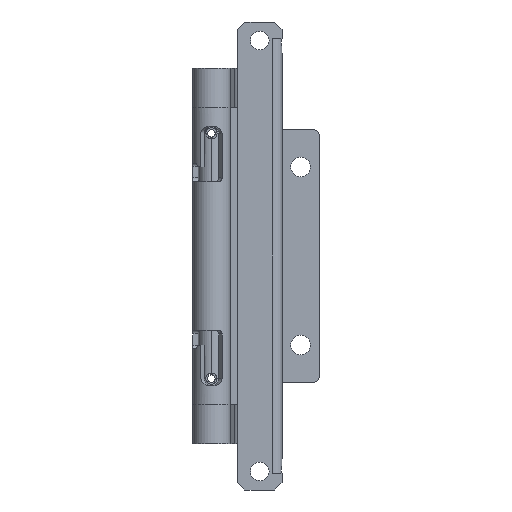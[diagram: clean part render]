
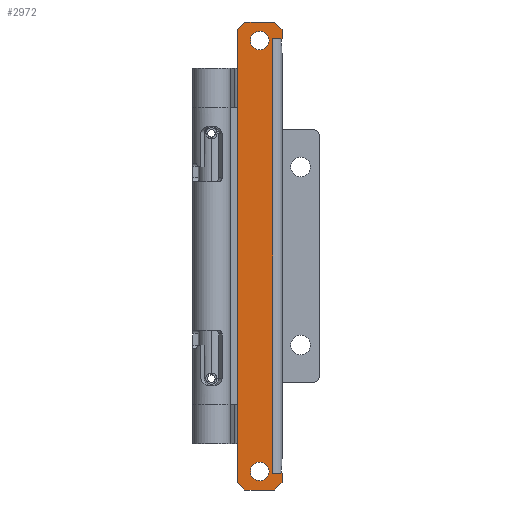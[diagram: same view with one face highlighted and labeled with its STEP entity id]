
A CAD part, front view. The second image highlights one B-rep face of the part: STEP entity #2972.
In plain terms, the highlighted planar face has unit normal (0, -1, 0).
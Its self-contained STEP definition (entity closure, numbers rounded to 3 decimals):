
#4 = ORIENTED_EDGE ( 'NONE', *, *, #2609, .F. ) ;
#19 = VECTOR ( 'NONE', #532, 1000. ) ;
#56 = LINE ( 'NONE', #4163, #3827 ) ;
#63 = CIRCLE ( 'NONE', #5437, 2.5 ) ;
#99 = ORIENTED_EDGE ( 'NONE', *, *, #5565, .F. ) ;
#137 = ORIENTED_EDGE ( 'NONE', *, *, #4752, .F. ) ;
#151 = AXIS2_PLACEMENT_3D ( 'NONE', #3398, #1993, #5293 ) ;
#291 = LINE ( 'NONE', #877, #3907 ) ;
#377 = CARTESIAN_POINT ( 'NONE',  ( 0., -1.5, -58.5 ) ) ;
#395 = CARTESIAN_POINT ( 'NONE',  ( 1.5, -1.5, 58.5 ) ) ;
#406 = DIRECTION ( 'NONE',  ( -0.707, 0., -0.707 ) ) ;
#509 = VERTEX_POINT ( 'NONE', #3248 ) ;
#516 = VERTEX_POINT ( 'NONE', #1422 ) ;
#532 = DIRECTION ( 'NONE',  ( 0., 0., 1. ) ) ;
#667 = ORIENTED_EDGE ( 'NONE', *, *, #1688, .T. ) ;
#845 = DIRECTION ( 'NONE',  ( 1., 0., 0. ) ) ;
#877 = CARTESIAN_POINT ( 'NONE',  ( 62.75, -1.5, 0.25 ) ) ;
#891 = EDGE_CURVE ( 'NONE', #5610, #2215, #4378, .T. ) ;
#900 = LINE ( 'NONE', #4690, #2318 ) ;
#967 = CARTESIAN_POINT ( 'NONE',  ( -10.5, -1.5, -61. ) ) ;
#1010 = ORIENTED_EDGE ( 'NONE', *, *, #2714, .F. ) ;
#1071 = EDGE_CURVE ( 'NONE', #509, #2293, #5040, .T. ) ;
#1115 = CIRCLE ( 'NONE', #1670, 2.5 ) ;
#1269 = DIRECTION ( 'NONE',  ( 0.707, 0., -0.707 ) ) ;
#1298 = EDGE_CURVE ( 'NONE', #2659, #2987, #4094, .T. ) ;
#1302 = DIRECTION ( 'NONE',  ( 0., 0., -1. ) ) ;
#1380 = FACE_BOUND ( 'NONE', #2071, .T. ) ;
#1422 = CARTESIAN_POINT ( 'NONE',  ( -4.5, -1.5, 60.5 ) ) ;
#1495 = ORIENTED_EDGE ( 'NONE', *, *, #1071, .T. ) ;
#1519 = PLANE ( 'NONE',  #151 ) ;
#1573 = VERTEX_POINT ( 'NONE', #4875 ) ;
#1595 = CIRCLE ( 'NONE', #1940, 2.5 ) ;
#1670 = AXIS2_PLACEMENT_3D ( 'NONE', #2304, #5592, #2782 ) ;
#1688 = EDGE_CURVE ( 'NONE', #3454, #4913, #4990, .T. ) ;
#1697 = ORIENTED_EDGE ( 'NONE', *, *, #3079, .F. ) ;
#1788 = CARTESIAN_POINT ( 'NONE',  ( 1.5, -1.5, -58.5 ) ) ;
#1812 = CARTESIAN_POINT ( 'NONE',  ( 0., -1.5, 58.5 ) ) ;
#1895 = ORIENTED_EDGE ( 'NONE', *, *, #2362, .F. ) ;
#1940 = AXIS2_PLACEMENT_3D ( 'NONE', #2233, #5526, #2716 ) ;
#1983 = VERTEX_POINT ( 'NONE', #5221 ) ;
#1993 = DIRECTION ( 'NONE',  ( 0., 1., 0. ) ) ;
#2071 = EDGE_LOOP ( 'NONE', ( #2241, #1010 ) ) ;
#2111 = CARTESIAN_POINT ( 'NONE',  ( -4.5, -1.5, -58. ) ) ;
#2156 = DIRECTION ( 'NONE',  ( 0., 0., -1. ) ) ;
#2160 = AXIS2_PLACEMENT_3D ( 'NONE', #2111, #5412, #2612 ) ;
#2215 = VERTEX_POINT ( 'NONE', #3607 ) ;
#2233 = CARTESIAN_POINT ( 'NONE',  ( -4.5, -1.5, 58. ) ) ;
#2241 = ORIENTED_EDGE ( 'NONE', *, *, #4785, .F. ) ;
#2293 = VERTEX_POINT ( 'NONE', #1788 ) ;
#2304 = CARTESIAN_POINT ( 'NONE',  ( -4.5, -1.5, -58. ) ) ;
#2318 = VECTOR ( 'NONE', #3757, 1000. ) ;
#2362 = EDGE_CURVE ( 'NONE', #509, #4913, #291, .T. ) ;
#2394 = VECTOR ( 'NONE', #845, 1000. ) ;
#2462 = DIRECTION ( 'NONE',  ( 0., -1., 0. ) ) ;
#2481 = VECTOR ( 'NONE', #2690, 1000. ) ;
#2500 = FACE_OUTER_BOUND ( 'NONE', #5382, .T. ) ;
#2591 = CARTESIAN_POINT ( 'NONE',  ( 0., -1.5, 63. ) ) ;
#2609 = EDGE_CURVE ( 'NONE', #516, #5735, #63, .T. ) ;
#2612 = DIRECTION ( 'NONE',  ( 0., 0., -1. ) ) ;
#2659 = VERTEX_POINT ( 'NONE', #4368 ) ;
#2690 = DIRECTION ( 'NONE',  ( 1., 0., 0. ) ) ;
#2714 = EDGE_CURVE ( 'NONE', #4126, #1573, #5887, .T. ) ;
#2716 = DIRECTION ( 'NONE',  ( 0., 0., -1. ) ) ;
#2782 = DIRECTION ( 'NONE',  ( 0., 0., -1. ) ) ;
#2848 = VECTOR ( 'NONE', #3057, 1000. ) ;
#2876 = VERTEX_POINT ( 'NONE', #967 ) ;
#2972 = ADVANCED_FACE ( 'NONE', ( #5009, #1380, #2500 ), #1519, .F. ) ;
#2987 = VERTEX_POINT ( 'NONE', #3417 ) ;
#3040 = CARTESIAN_POINT ( 'NONE',  ( -0.25, -1.5, 62.75 ) ) ;
#3057 = DIRECTION ( 'NONE',  ( 1., 0., 0. ) ) ;
#3079 = EDGE_CURVE ( 'NONE', #2987, #1983, #4414, .T. ) ;
#3106 = VECTOR ( 'NONE', #4174, 1000. ) ;
#3248 = CARTESIAN_POINT ( 'NONE',  ( 1.5, -1.5, -61. ) ) ;
#3265 = EDGE_CURVE ( 'NONE', #2659, #3940, #56, .T. ) ;
#3277 = ORIENTED_EDGE ( 'NONE', *, *, #3930, .T. ) ;
#3334 = CARTESIAN_POINT ( 'NONE',  ( -8.5, -1.5, -63. ) ) ;
#3342 = VECTOR ( 'NONE', #2156, 1000. ) ;
#3398 = CARTESIAN_POINT ( 'NONE',  ( 0., -1.5, 63. ) ) ;
#3417 = CARTESIAN_POINT ( 'NONE',  ( -0.5, -1.5, 63. ) ) ;
#3454 = VERTEX_POINT ( 'NONE', #3334 ) ;
#3520 = CARTESIAN_POINT ( 'NONE',  ( -4.5, -1.5, 55.5 ) ) ;
#3607 = CARTESIAN_POINT ( 'NONE',  ( -1., -1.5, 58.5 ) ) ;
#3632 = LINE ( 'NONE', #377, #2394 ) ;
#3725 = LINE ( 'NONE', #4092, #4983 ) ;
#3757 = DIRECTION ( 'NONE',  ( 0., 0., -1. ) ) ;
#3809 = VERTEX_POINT ( 'NONE', #4537 ) ;
#3827 = VECTOR ( 'NONE', #406, 1000. ) ;
#3842 = CARTESIAN_POINT ( 'NONE',  ( 1.5, -1.5, 0. ) ) ;
#3847 = VECTOR ( 'NONE', #1302, 1000. ) ;
#3851 = EDGE_LOOP ( 'NONE', ( #5458, #4 ) ) ;
#3857 = EDGE_CURVE ( 'NONE', #2876, #3454, #3725, .T. ) ;
#3907 = VECTOR ( 'NONE', #4189, 1000. ) ;
#3930 = EDGE_CURVE ( 'NONE', #3940, #2876, #900, .T. ) ;
#3940 = VERTEX_POINT ( 'NONE', #5649 ) ;
#4092 = CARTESIAN_POINT ( 'NONE',  ( -67.25, -1.5, -4.25 ) ) ;
#4094 = LINE ( 'NONE', #2591, #2848 ) ;
#4126 = VERTEX_POINT ( 'NONE', #5395 ) ;
#4163 = CARTESIAN_POINT ( 'NONE',  ( -4.25, -1.5, 67.25 ) ) ;
#4174 = DIRECTION ( 'NONE',  ( -1., 0., 0. ) ) ;
#4189 = DIRECTION ( 'NONE',  ( -0.707, 0., -0.707 ) ) ;
#4228 = EDGE_CURVE ( 'NONE', #1983, #5610, #4603, .T. ) ;
#4368 = CARTESIAN_POINT ( 'NONE',  ( -8.5, -1.5, 63. ) ) ;
#4378 = LINE ( 'NONE', #1812, #3106 ) ;
#4414 = LINE ( 'NONE', #3040, #5507 ) ;
#4468 = ORIENTED_EDGE ( 'NONE', *, *, #3265, .T. ) ;
#4522 = CARTESIAN_POINT ( 'NONE',  ( 1.5, -1.5, 0. ) ) ;
#4537 = CARTESIAN_POINT ( 'NONE',  ( -1., -1.5, -58.5 ) ) ;
#4603 = LINE ( 'NONE', #4522, #3342 ) ;
#4690 = CARTESIAN_POINT ( 'NONE',  ( -10.5, -1.5, 63. ) ) ;
#4741 = ORIENTED_EDGE ( 'NONE', *, *, #4228, .F. ) ;
#4752 = EDGE_CURVE ( 'NONE', #3809, #2293, #3632, .T. ) ;
#4785 = EDGE_CURVE ( 'NONE', #1573, #4126, #1115, .T. ) ;
#4789 = CARTESIAN_POINT ( 'NONE',  ( -0.5, -1.5, -63. ) ) ;
#4875 = CARTESIAN_POINT ( 'NONE',  ( -4.5, -1.5, -60.5 ) ) ;
#4913 = VERTEX_POINT ( 'NONE', #4789 ) ;
#4983 = VECTOR ( 'NONE', #1269, 1000. ) ;
#4990 = LINE ( 'NONE', #5975, #2481 ) ;
#5009 = FACE_BOUND ( 'NONE', #3851, .T. ) ;
#5040 = LINE ( 'NONE', #3842, #19 ) ;
#5221 = CARTESIAN_POINT ( 'NONE',  ( 1.5, -1.5, 61. ) ) ;
#5275 = CARTESIAN_POINT ( 'NONE',  ( -4.5, -1.5, 58. ) ) ;
#5293 = DIRECTION ( 'NONE',  ( 0., 0., 1. ) ) ;
#5365 = ORIENTED_EDGE ( 'NONE', *, *, #891, .F. ) ;
#5382 = EDGE_LOOP ( 'NONE', ( #4468, #3277, #5538, #667, #1895, #1495, #137, #99, #5365, #4741, #1697, #5539 ) ) ;
#5395 = CARTESIAN_POINT ( 'NONE',  ( -4.5, -1.5, -55.5 ) ) ;
#5412 = DIRECTION ( 'NONE',  ( 0., -1., 0. ) ) ;
#5437 = AXIS2_PLACEMENT_3D ( 'NONE', #5275, #2462, #5738 ) ;
#5458 = ORIENTED_EDGE ( 'NONE', *, *, #5879, .F. ) ;
#5507 = VECTOR ( 'NONE', #5877, 1000. ) ;
#5526 = DIRECTION ( 'NONE',  ( 0., -1., 0. ) ) ;
#5538 = ORIENTED_EDGE ( 'NONE', *, *, #3857, .T. ) ;
#5539 = ORIENTED_EDGE ( 'NONE', *, *, #1298, .F. ) ;
#5565 = EDGE_CURVE ( 'NONE', #2215, #3809, #5840, .T. ) ;
#5592 = DIRECTION ( 'NONE',  ( 0., -1., 0. ) ) ;
#5610 = VERTEX_POINT ( 'NONE', #395 ) ;
#5649 = CARTESIAN_POINT ( 'NONE',  ( -10.5, -1.5, 61. ) ) ;
#5735 = VERTEX_POINT ( 'NONE', #3520 ) ;
#5738 = DIRECTION ( 'NONE',  ( 0., 0., -1. ) ) ;
#5840 = LINE ( 'NONE', #6025, #3847 ) ;
#5877 = DIRECTION ( 'NONE',  ( 0.707, 0., -0.707 ) ) ;
#5879 = EDGE_CURVE ( 'NONE', #5735, #516, #1595, .T. ) ;
#5887 = CIRCLE ( 'NONE', #2160, 2.5 ) ;
#5975 = CARTESIAN_POINT ( 'NONE',  ( 0., -1.5, -63. ) ) ;
#6025 = CARTESIAN_POINT ( 'NONE',  ( -1., -1.5, 63. ) ) ;
